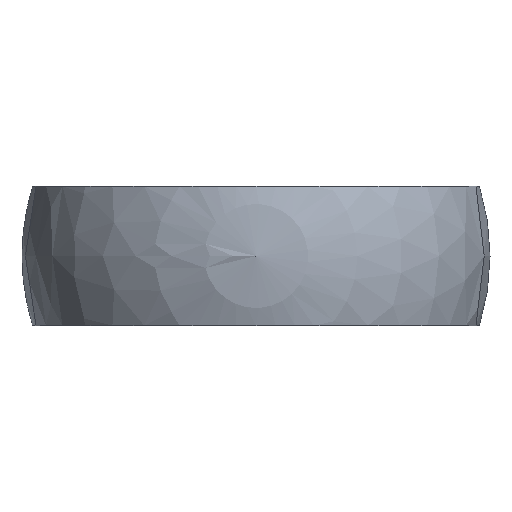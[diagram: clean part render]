
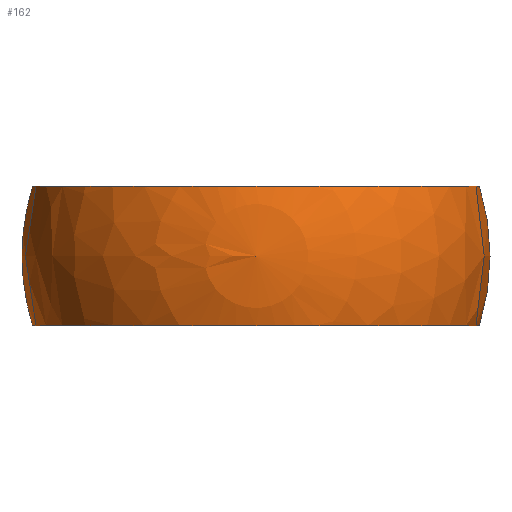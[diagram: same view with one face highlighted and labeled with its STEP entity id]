
A CAD part, front view. The second image highlights one B-rep face of the part: STEP entity #162.
In plain terms, the highlighted spherical face has radius 23.5 mm.
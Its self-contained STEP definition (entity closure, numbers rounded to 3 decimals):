
#161 = EDGE_LOOP ( 'NONE', ( #163, #227, #223, #220 ) ) ;
#162 = ADVANCED_FACE ( 'NONE', ( #624 ), #619, .T. ) ;
#163 = ORIENTED_EDGE ( 'NONE', *, *, #229, .T. ) ;
#218 = VERTEX_POINT ( 'NONE', #657 ) ;
#219 = VERTEX_POINT ( 'NONE', #705 ) ;
#220 = ORIENTED_EDGE ( 'NONE', *, *, #221, .F. ) ;
#221 = EDGE_CURVE ( 'NONE', #231, #219, #692, .T. ) ;
#223 = ORIENTED_EDGE ( 'NONE', *, *, #226, .F. ) ;
#226 = EDGE_CURVE ( 'NONE', #219, #218, #686, .T. ) ;
#227 = ORIENTED_EDGE ( 'NONE', *, *, #228, .T. ) ;
#228 = EDGE_CURVE ( 'NONE', #230, #218, #691, .T. ) ;
#229 = EDGE_CURVE ( 'NONE', #231, #230, #748, .T. ) ;
#230 = VERTEX_POINT ( 'NONE', #743 ) ;
#231 = VERTEX_POINT ( 'NONE', #731 ) ;
#566 = AXIS2_PLACEMENT_3D ( 'NONE', #614, #617, #609 ) ;
#609 = DIRECTION ( 'NONE',  ( -1., 0., 0. ) ) ;
#614 = CARTESIAN_POINT ( 'NONE',  ( 0., 0., 0. ) ) ;
#617 = DIRECTION ( 'NONE',  ( 0., -1., 0. ) ) ;
#619 = SPHERICAL_SURFACE ( 'NONE', #566, 23.5 ) ;
#624 = FACE_OUTER_BOUND ( 'NONE', #161, .T. ) ;
#657 = CARTESIAN_POINT ( 'NONE',  ( 22.433, 0., 7. ) ) ;
#686 = CIRCLE ( 'NONE', #747, 22.433 ) ;
#687 = DIRECTION ( 'NONE',  ( 0., 0., 1. ) ) ;
#688 = DIRECTION ( 'NONE',  ( 0., 1., 0. ) ) ;
#689 = AXIS2_PLACEMENT_3D ( 'NONE', #694, #688, #687 ) ;
#691 = CIRCLE ( 'NONE', #749, 23.5 ) ;
#692 = CIRCLE ( 'NONE', #689, 23.5 ) ;
#694 = CARTESIAN_POINT ( 'NONE',  ( 0., 0., 0. ) ) ;
#705 = CARTESIAN_POINT ( 'NONE',  ( -22.433, 0., 7. ) ) ;
#731 = CARTESIAN_POINT ( 'NONE',  ( -22.433, 0., -7. ) ) ;
#733 = DIRECTION ( 'NONE',  ( 1., 0., 0. ) ) ;
#734 = DIRECTION ( 'NONE',  ( 0., 0., 1. ) ) ;
#735 = CARTESIAN_POINT ( 'NONE',  ( 0., 0., -7. ) ) ;
#738 = AXIS2_PLACEMENT_3D ( 'NONE', #735, #734, #733 ) ;
#739 = DIRECTION ( 'NONE',  ( 1., 0., 0. ) ) ;
#740 = DIRECTION ( 'NONE',  ( 0., -1., 0. ) ) ;
#741 = CARTESIAN_POINT ( 'NONE',  ( 0., 0., 0. ) ) ;
#743 = CARTESIAN_POINT ( 'NONE',  ( 22.433, 0., -7. ) ) ;
#744 = DIRECTION ( 'NONE',  ( 1., 0., 0. ) ) ;
#745 = DIRECTION ( 'NONE',  ( 0., 0., 1. ) ) ;
#746 = CARTESIAN_POINT ( 'NONE',  ( 0., 0., 7. ) ) ;
#747 = AXIS2_PLACEMENT_3D ( 'NONE', #746, #745, #744 ) ;
#748 = CIRCLE ( 'NONE', #738, 22.433 ) ;
#749 = AXIS2_PLACEMENT_3D ( 'NONE', #741, #740, #739 ) ;
